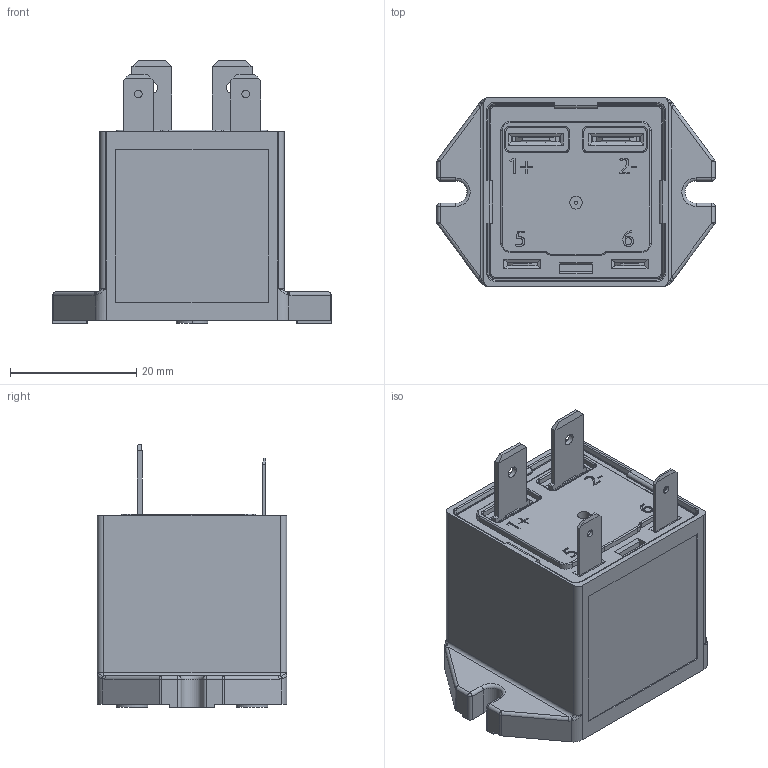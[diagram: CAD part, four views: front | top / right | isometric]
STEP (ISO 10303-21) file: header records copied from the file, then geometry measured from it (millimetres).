
FILE_DESCRIPTION (( 'STEP AP214' ), '1' );
FILE_NAME ('NDZ3X-20C.STEP', '2020-06-28T01:46:59', ( '' ), ( '' ), 'SwSTEP 2.0', 'SolidWorks 2018', '' );
FILE_SCHEMA (( 'AUTOMOTIVE_DESIGN' ));
Length unit declared in the file: millimetre
Products named in the file (4): 8LD.315.0026; 8LD.005.0051; 20S囀窒; NDZ3X-20C
Assembly tree (3 placements, depth 2):
  NDZ3X-20C
    20S囀窒
    8LD.005.0051
    8LD.315.0026
Bounding box: 44 x 30 x 41.6 mm (x, y, z)
Volume: 8364.7 mm3; surface area: 13796.5 mm2
Topology: 6 solids, 6 shells, 1454 faces, 3768 edges, 2309 vertices
Faces by surface type: plane 669, cylinder 581, torus 103, bspline 51, sphere 46, cone 4
Entity records: 45982 total; most frequent: CARTESIAN_POINT 10675, ORIENTED_EDGE 7440, DIRECTION 7318, EDGE_CURVE 3720, AXIS2_PLACEMENT_3D 2460, VECTOR 2398, LINE 2398, VERTEX_POINT 2309
